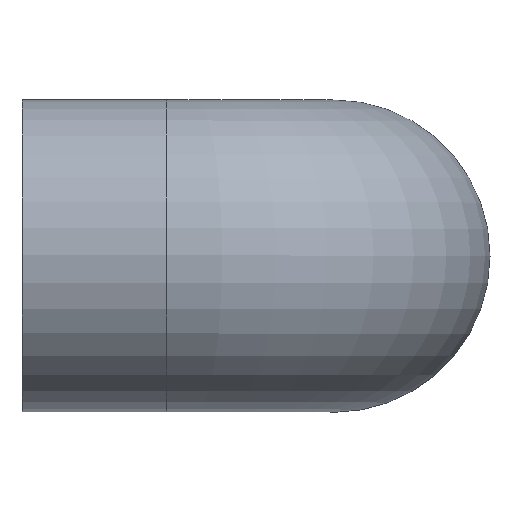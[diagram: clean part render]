
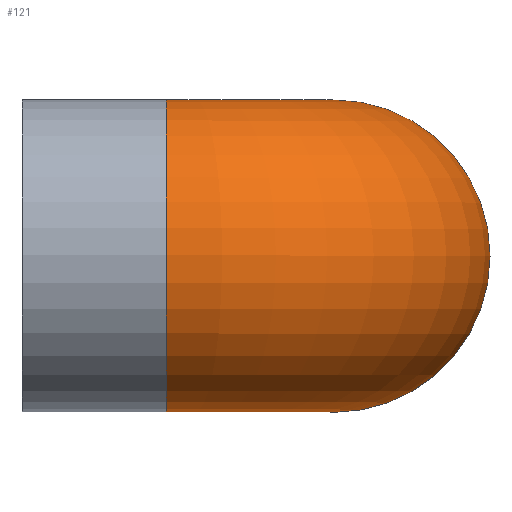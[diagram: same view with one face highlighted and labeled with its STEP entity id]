
A CAD part, top view. The second image highlights one B-rep face of the part: STEP entity #121.
In plain terms, the highlighted toroidal (fillet/blend) face has major radius 14.5 mm and minor radius 13.5 mm.
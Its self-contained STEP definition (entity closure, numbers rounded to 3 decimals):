
#29=FACE_BOUND('',#56,.T.);
#39=FACE_OUTER_BOUND('',#55,.T.);
#55=EDGE_LOOP('',(#105));
#56=EDGE_LOOP('',(#106));
#70=CIRCLE('',#140,13.5);
#71=CIRCLE('',#142,13.5);
#80=VERTEX_POINT('',#210);
#81=VERTEX_POINT('',#213);
#90=EDGE_CURVE('',#80,#80,#70,.T.);
#91=EDGE_CURVE('',#81,#81,#71,.T.);
#105=ORIENTED_EDGE('',*,*,#90,.F.);
#106=ORIENTED_EDGE('',*,*,#91,.T.);
#114=TOROIDAL_SURFACE('',#141,14.5,13.5);
#121=ADVANCED_FACE('',(#39,#29),#114,.T.);
#140=AXIS2_PLACEMENT_3D('',#211,#175,#176);
#141=AXIS2_PLACEMENT_3D('',#212,#177,#178);
#142=AXIS2_PLACEMENT_3D('',#214,#179,#180);
#175=DIRECTION('center_axis',(-1.,0.,0.));
#176=DIRECTION('ref_axis',(0.,0.,-1.));
#177=DIRECTION('center_axis',(0.,-1.,0.));
#178=DIRECTION('ref_axis',(0.,0.,-1.));
#179=DIRECTION('center_axis',(0.,0.,1.));
#180=DIRECTION('ref_axis',(-1.,0.,0.));
#210=CARTESIAN_POINT('',(-14.5,0.,40.5));
#211=CARTESIAN_POINT('Origin',(-14.5,0.,27.));
#212=CARTESIAN_POINT('Origin',(-14.5,0.,12.5));
#213=CARTESIAN_POINT('',(13.5,0.,12.5));
#214=CARTESIAN_POINT('Origin',(0.,0.,12.5));
